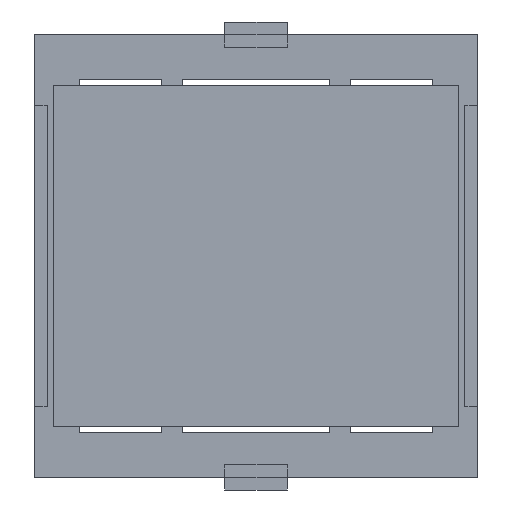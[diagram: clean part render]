
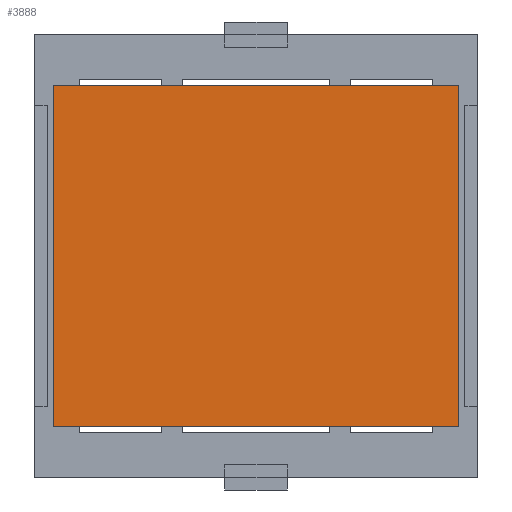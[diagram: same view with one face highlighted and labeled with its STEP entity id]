
A CAD part, front view. The second image highlights one B-rep face of the part: STEP entity #3888.
In plain terms, the highlighted planar face has unit normal (0, -1, 0).
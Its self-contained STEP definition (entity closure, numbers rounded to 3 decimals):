
#172 = CARTESIAN_POINT ( 'NONE',  ( -16.129, -0.127, -13.589 ) ) ;
#314 = CARTESIAN_POINT ( 'NONE',  ( -16.129, -0.127, 13.589 ) ) ;
#528 = LINE ( 'NONE', #955, #1646 ) ;
#910 = FACE_OUTER_BOUND ( 'NONE', #3532, .T. ) ;
#945 = VERTEX_POINT ( 'NONE', #2137 ) ;
#955 = CARTESIAN_POINT ( 'NONE',  ( 16.129, -0.127, -13.589 ) ) ;
#1024 = VECTOR ( 'NONE', #1762, 1000. ) ;
#1054 = CARTESIAN_POINT ( 'NONE',  ( 16.129, -0.127, -13.589 ) ) ;
#1242 = DIRECTION ( 'NONE',  ( 0., 1., 0. ) ) ;
#1646 = VECTOR ( 'NONE', #4745, 1000. ) ;
#1762 = DIRECTION ( 'NONE',  ( 1., 0., 0. ) ) ;
#1785 = PLANE ( 'NONE',  #2808 ) ;
#1862 = EDGE_CURVE ( 'NONE', #2001, #945, #5602, .T. ) ;
#2001 = VERTEX_POINT ( 'NONE', #6050 ) ;
#2112 = EDGE_CURVE ( 'NONE', #945, #4598, #528, .T. ) ;
#2137 = CARTESIAN_POINT ( 'NONE',  ( 16.129, -0.127, 13.589 ) ) ;
#2153 = EDGE_CURVE ( 'NONE', #6128, #2001, #3107, .T. ) ;
#2730 = ORIENTED_EDGE ( 'NONE', *, *, #2112, .F. ) ;
#2808 = AXIS2_PLACEMENT_3D ( 'NONE', #314, #1242, #3727 ) ;
#3107 = LINE ( 'NONE', #172, #3878 ) ;
#3295 = CARTESIAN_POINT ( 'NONE',  ( -16.129, -0.127, -13.589 ) ) ;
#3341 = EDGE_CURVE ( 'NONE', #4598, #6128, #4902, .T. ) ;
#3532 = EDGE_LOOP ( 'NONE', ( #4803, #4206, #2730, #5346 ) ) ;
#3727 = DIRECTION ( 'NONE',  ( 0., 0., 1. ) ) ;
#3878 = VECTOR ( 'NONE', #5882, 1000. ) ;
#3888 = ADVANCED_FACE ( 'NONE', ( #910 ), #1785, .F. ) ;
#4206 = ORIENTED_EDGE ( 'NONE', *, *, #3341, .F. ) ;
#4327 = CARTESIAN_POINT ( 'NONE',  ( -16.129, -0.127, -13.589 ) ) ;
#4598 = VERTEX_POINT ( 'NONE', #1054 ) ;
#4745 = DIRECTION ( 'NONE',  ( 0., 0., -1. ) ) ;
#4803 = ORIENTED_EDGE ( 'NONE', *, *, #2153, .F. ) ;
#4902 = LINE ( 'NONE', #4327, #5480 ) ;
#5139 = DIRECTION ( 'NONE',  ( -1., 0., 0. ) ) ;
#5346 = ORIENTED_EDGE ( 'NONE', *, *, #1862, .F. ) ;
#5480 = VECTOR ( 'NONE', #5139, 1000. ) ;
#5602 = LINE ( 'NONE', #6067, #1024 ) ;
#5882 = DIRECTION ( 'NONE',  ( 0., 0., 1. ) ) ;
#6050 = CARTESIAN_POINT ( 'NONE',  ( -16.129, -0.127, 13.589 ) ) ;
#6067 = CARTESIAN_POINT ( 'NONE',  ( -16.129, -0.127, 13.589 ) ) ;
#6128 = VERTEX_POINT ( 'NONE', #3295 ) ;
